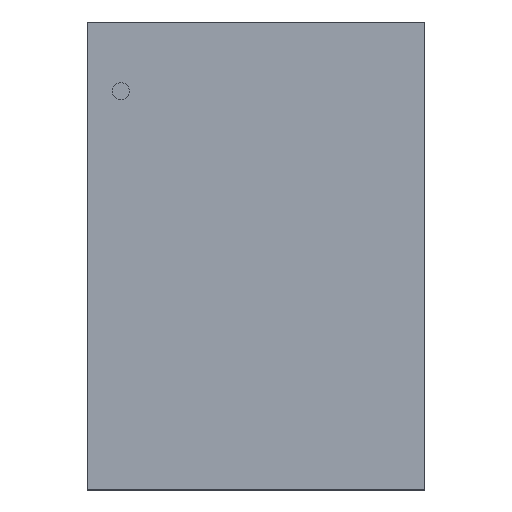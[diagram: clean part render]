
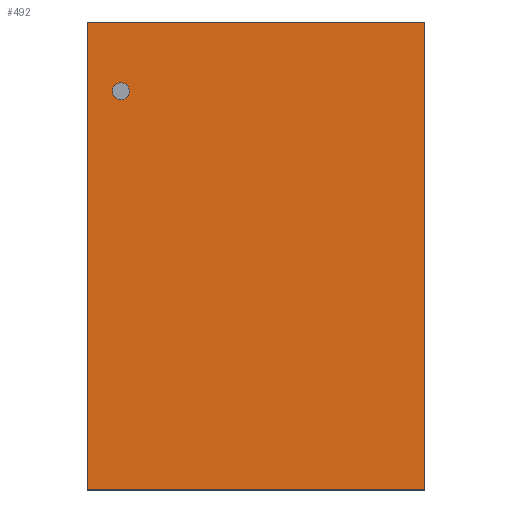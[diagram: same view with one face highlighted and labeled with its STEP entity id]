
A CAD part, top view. The second image highlights one B-rep face of the part: STEP entity #492.
In plain terms, the highlighted planar face has unit normal (0, 0, 1).
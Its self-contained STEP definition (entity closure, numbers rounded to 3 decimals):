
#268=CARTESIAN_POINT('',(2.604,-3.607,1.803));
#267=VERTEX_POINT('',#268);
#278=CARTESIAN_POINT('',(-2.604,-3.607,1.803));
#277=VERTEX_POINT('',#278);
#276=EDGE_CURVE('',#277,#267,#281,.T.);
#281=LINE('',#278,#283);
#283=VECTOR('',#284,5.207);
#284=DIRECTION('',(1.0,0.0,0.0));
#317=CARTESIAN_POINT('',(2.604,3.607,1.803));
#316=VERTEX_POINT('',#317);
#325=EDGE_CURVE('',#267,#316,#330,.T.);
#330=LINE('',#268,#332);
#332=VECTOR('',#333,7.214);
#333=DIRECTION('',(0.0,1.0,0.0));
#366=CARTESIAN_POINT('',(-2.604,3.607,1.803));
#365=VERTEX_POINT('',#366);
#374=EDGE_CURVE('',#316,#365,#379,.T.);
#379=LINE('',#317,#381);
#381=VECTOR('',#382,5.207);
#382=DIRECTION('',(-1.0,0.0,0.0));
#423=EDGE_CURVE('',#365,#277,#428,.T.);
#428=LINE('',#366,#430);
#430=VECTOR('',#431,7.214);
#431=DIRECTION('',(0.0,-1.0,0.0));
#492=ADVANCED_FACE('',(#498),#493,.T.);
#493=PLANE('',#494);
#494=AXIS2_PLACEMENT_3D('',#495,#496,#497);
#495=CARTESIAN_POINT('',(-2.604,-3.607,1.803));
#496=DIRECTION('',(0.0,0.0,1.0));
#497=DIRECTION('',(0.,1.,0.));
#498=FACE_OUTER_BOUND('',#499,.T.);
#499=EDGE_LOOP('',(#500,#510,#520,#530));
#500=ORIENTED_EDGE('',*,*,#276,.T.);
#510=ORIENTED_EDGE('',*,*,#325,.T.);
#520=ORIENTED_EDGE('',*,*,#374,.T.);
#530=ORIENTED_EDGE('',*,*,#423,.T.);
